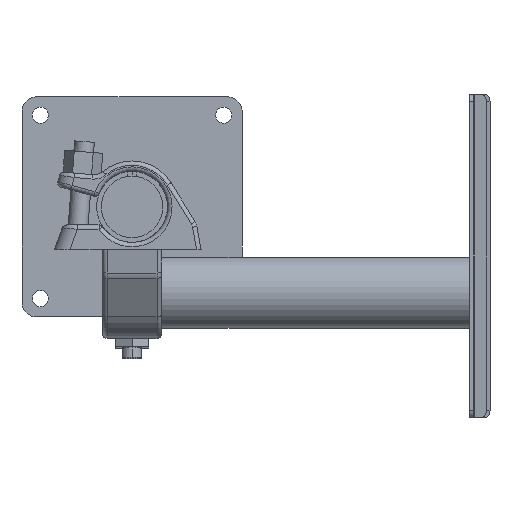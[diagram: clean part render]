
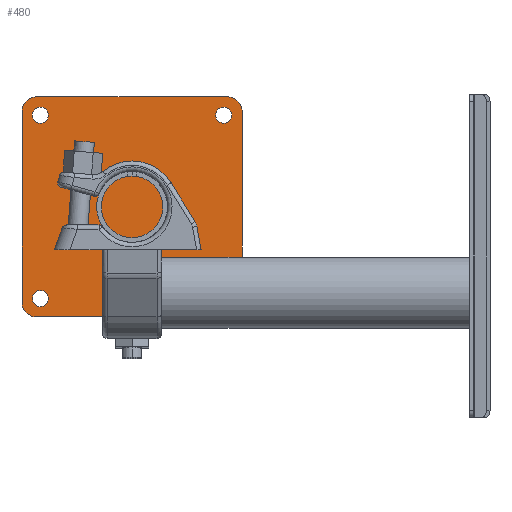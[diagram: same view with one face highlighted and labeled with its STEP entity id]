
A CAD part, front view. The second image highlights one B-rep face of the part: STEP entity #480.
In plain terms, the highlighted planar face has unit normal (0, -1, 0).
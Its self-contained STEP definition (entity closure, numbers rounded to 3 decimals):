
#109=DIRECTION('',(-1.,0.,0.));
#110=VECTOR('',#109,130.);
#111=CARTESIAN_POINT('',(65.,-6.,-75.));
#112=LINE('',#111,#110);
#113=CARTESIAN_POINT('',(-65.,-6.,-65.));
#114=DIRECTION('',(0.,1.,0.));
#115=DIRECTION('',(0.,0.,-1.));
#116=AXIS2_PLACEMENT_3D('',#113,#114,#115);
#118=DIRECTION('',(0.,0.,1.));
#119=VECTOR('',#118,130.);
#120=CARTESIAN_POINT('',(-75.,-6.,-65.));
#121=LINE('',#120,#119);
#122=CARTESIAN_POINT('',(-65.,-6.,65.));
#123=DIRECTION('',(0.,1.,0.));
#124=DIRECTION('',(-1.,0.,0.));
#125=AXIS2_PLACEMENT_3D('',#122,#123,#124);
#127=DIRECTION('',(1.,0.,0.));
#128=VECTOR('',#127,130.);
#129=CARTESIAN_POINT('',(-65.,-6.,75.));
#130=LINE('',#129,#128);
#131=CARTESIAN_POINT('',(65.,-6.,65.));
#132=DIRECTION('',(0.,1.,0.));
#133=DIRECTION('',(0.,0.,1.));
#134=AXIS2_PLACEMENT_3D('',#131,#132,#133);
#136=DIRECTION('',(0.,0.,-1.));
#137=VECTOR('',#136,130.);
#138=CARTESIAN_POINT('',(75.,-6.,65.));
#139=LINE('',#138,#137);
#140=CARTESIAN_POINT('',(65.,-6.,-65.));
#141=DIRECTION('',(0.,1.,0.));
#142=DIRECTION('',(1.,0.,0.));
#143=AXIS2_PLACEMENT_3D('',#140,#141,#142);
#145=CARTESIAN_POINT('',(-62.5,-6.,62.5));
#146=DIRECTION('',(0.,-1.,0.));
#147=DIRECTION('',(1.,0.,0.));
#148=AXIS2_PLACEMENT_3D('',#145,#146,#147);
#150=CARTESIAN_POINT('',(-62.5,-6.,62.5));
#151=DIRECTION('',(0.,-1.,0.));
#152=DIRECTION('',(-1.,0.,0.));
#153=AXIS2_PLACEMENT_3D('',#150,#151,#152);
#155=CARTESIAN_POINT('',(62.5,-6.,62.5));
#156=DIRECTION('',(0.,-1.,0.));
#157=DIRECTION('',(1.,0.,0.));
#158=AXIS2_PLACEMENT_3D('',#155,#156,#157);
#160=CARTESIAN_POINT('',(62.5,-6.,62.5));
#161=DIRECTION('',(0.,-1.,0.));
#162=DIRECTION('',(-1.,0.,0.));
#163=AXIS2_PLACEMENT_3D('',#160,#161,#162);
#165=CARTESIAN_POINT('',(-62.5,-6.,-62.5));
#166=DIRECTION('',(0.,-1.,0.));
#167=DIRECTION('',(1.,0.,0.));
#168=AXIS2_PLACEMENT_3D('',#165,#166,#167);
#170=CARTESIAN_POINT('',(-62.5,-6.,-62.5));
#171=DIRECTION('',(0.,-1.,0.));
#172=DIRECTION('',(-1.,0.,0.));
#173=AXIS2_PLACEMENT_3D('',#170,#171,#172);
#175=CARTESIAN_POINT('',(62.5,-6.,-62.5));
#176=DIRECTION('',(0.,-1.,0.));
#177=DIRECTION('',(1.,0.,0.));
#178=AXIS2_PLACEMENT_3D('',#175,#176,#177);
#180=CARTESIAN_POINT('',(62.5,-6.,-62.5));
#181=DIRECTION('',(0.,-1.,0.));
#182=DIRECTION('',(-1.,0.,0.));
#183=AXIS2_PLACEMENT_3D('',#180,#181,#182);
#233=CARTESIAN_POINT('',(65.,-6.,-75.));
#234=CARTESIAN_POINT('',(-65.,-6.,-75.));
#235=VERTEX_POINT('',#233);
#236=VERTEX_POINT('',#234);
#237=CARTESIAN_POINT('',(-75.,-6.,-65.));
#238=VERTEX_POINT('',#237);
#239=CARTESIAN_POINT('',(-75.,-6.,65.));
#240=VERTEX_POINT('',#239);
#241=CARTESIAN_POINT('',(-65.,-6.,75.));
#242=VERTEX_POINT('',#241);
#243=CARTESIAN_POINT('',(65.,-6.,75.));
#244=VERTEX_POINT('',#243);
#245=CARTESIAN_POINT('',(75.,-6.,65.));
#246=VERTEX_POINT('',#245);
#247=CARTESIAN_POINT('',(75.,-6.,-65.));
#248=VERTEX_POINT('',#247);
#253=CARTESIAN_POINT('',(-57.,-6.,62.5));
#254=CARTESIAN_POINT('',(-68.,-6.,62.5));
#255=VERTEX_POINT('',#253);
#256=VERTEX_POINT('',#254);
#269=CARTESIAN_POINT('',(68.,-6.,62.5));
#270=CARTESIAN_POINT('',(57.,-6.,62.5));
#271=VERTEX_POINT('',#269);
#272=VERTEX_POINT('',#270);
#273=CARTESIAN_POINT('',(-57.,-6.,-62.5));
#274=CARTESIAN_POINT('',(-68.,-6.,-62.5));
#275=VERTEX_POINT('',#273);
#276=VERTEX_POINT('',#274);
#277=CARTESIAN_POINT('',(68.,-6.,-62.5));
#278=CARTESIAN_POINT('',(57.,-6.,-62.5));
#279=VERTEX_POINT('',#277);
#280=VERTEX_POINT('',#278);
#441=CARTESIAN_POINT('',(0.,-6.,0.));
#442=DIRECTION('',(0.,1.,0.));
#443=DIRECTION('',(1.,0.,0.));
#444=AXIS2_PLACEMENT_3D('',#441,#442,#443);
#445=PLANE('',#444);
#446=ORIENTED_EDGE('',*,*,#337,.T.);
#447=ORIENTED_EDGE('',*,*,#352,.T.);
#448=ORIENTED_EDGE('',*,*,#366,.T.);
#449=ORIENTED_EDGE('',*,*,#380,.T.);
#450=ORIENTED_EDGE('',*,*,#394,.T.);
#451=ORIENTED_EDGE('',*,*,#408,.T.);
#452=ORIENTED_EDGE('',*,*,#422,.T.);
#453=ORIENTED_EDGE('',*,*,#435,.T.);
#454=EDGE_LOOP('',(#446,#447,#448,#449,#450,#451,#452,#453));
#455=FACE_OUTER_BOUND('',#454,.F.);
#457=ORIENTED_EDGE('',*,*,#456,.T.);
#459=ORIENTED_EDGE('',*,*,#458,.T.);
#460=EDGE_LOOP('',(#457,#459));
#461=FACE_BOUND('',#460,.F.);
#463=ORIENTED_EDGE('',*,*,#462,.T.);
#465=ORIENTED_EDGE('',*,*,#464,.T.);
#466=EDGE_LOOP('',(#463,#465));
#467=FACE_BOUND('',#466,.F.);
#469=ORIENTED_EDGE('',*,*,#468,.T.);
#471=ORIENTED_EDGE('',*,*,#470,.T.);
#472=EDGE_LOOP('',(#469,#471));
#473=FACE_BOUND('',#472,.F.);
#475=ORIENTED_EDGE('',*,*,#474,.T.);
#477=ORIENTED_EDGE('',*,*,#476,.T.);
#478=EDGE_LOOP('',(#475,#477));
#479=FACE_BOUND('',#478,.F.);
#480=ADVANCED_FACE('',(#455,#461,#467,#473,#479),#445,.F.);
#117=CIRCLE('',#116,10.);
#126=CIRCLE('',#125,10.);
#135=CIRCLE('',#134,10.);
#144=CIRCLE('',#143,10.);
#149=CIRCLE('',#148,5.5);
#154=CIRCLE('',#153,5.5);
#159=CIRCLE('',#158,5.5);
#164=CIRCLE('',#163,5.5);
#169=CIRCLE('',#168,5.5);
#174=CIRCLE('',#173,5.5);
#179=CIRCLE('',#178,5.5);
#184=CIRCLE('',#183,5.5);
#337=EDGE_CURVE('',#235,#236,#112,.T.);
#352=EDGE_CURVE('',#236,#238,#117,.T.);
#366=EDGE_CURVE('',#238,#240,#121,.T.);
#380=EDGE_CURVE('',#240,#242,#126,.T.);
#394=EDGE_CURVE('',#242,#244,#130,.T.);
#408=EDGE_CURVE('',#244,#246,#135,.T.);
#422=EDGE_CURVE('',#246,#248,#139,.T.);
#435=EDGE_CURVE('',#248,#235,#144,.T.);
#456=EDGE_CURVE('',#255,#256,#149,.T.);
#458=EDGE_CURVE('',#256,#255,#154,.T.);
#462=EDGE_CURVE('',#271,#272,#159,.T.);
#464=EDGE_CURVE('',#272,#271,#164,.T.);
#468=EDGE_CURVE('',#275,#276,#169,.T.);
#470=EDGE_CURVE('',#276,#275,#174,.T.);
#474=EDGE_CURVE('',#279,#280,#179,.T.);
#476=EDGE_CURVE('',#280,#279,#184,.T.);
